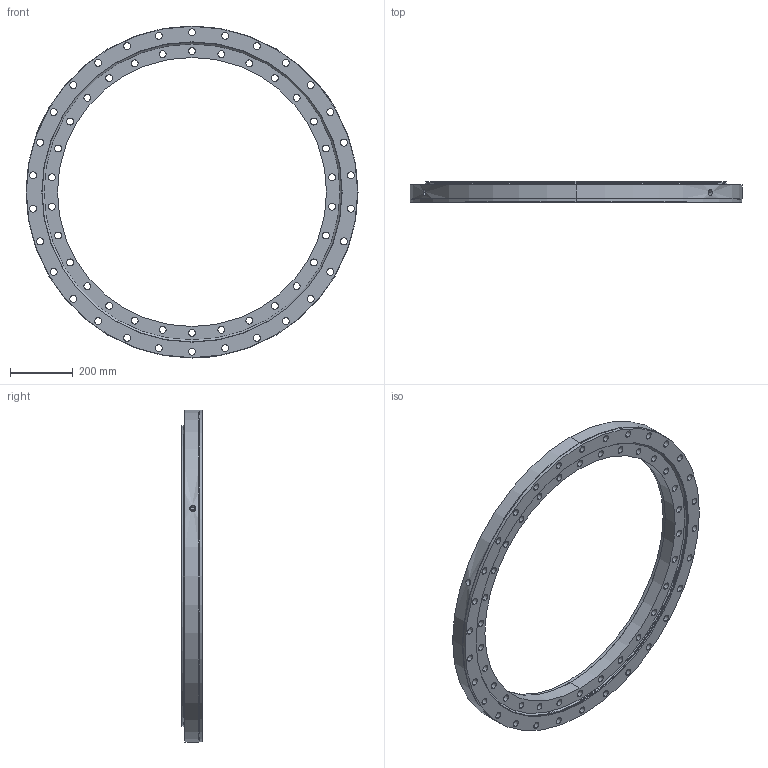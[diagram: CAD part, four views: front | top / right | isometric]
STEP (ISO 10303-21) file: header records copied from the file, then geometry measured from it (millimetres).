
FILE_DESCRIPTION (( 'STEP AP214' ), '1' );
FILE_NAME ('B2125-0-1055AA.STEP', '2022-11-24T06:49:37', ( '' ), ( '' ), 'SwSTEP 2.0', 'SolidWorks 2020', '' );
FILE_SCHEMA (( 'AUTOMOTIVE_DESIGN' ));
Length unit declared in the file: millimetre
Products named in the file (1): B2125-0-1055AA
Bounding box: 1055 x 65 x 1055 mm (x, y, z)
Volume: 14981844.9 mm3; surface area: 1723386.7 mm2
Topology: 4 solids, 4 shells, 210 faces, 558 edges, 368 vertices
Faces by surface type: cylinder 175, plane 23, cone 12
Entity records: 7576 total; most frequent: CARTESIAN_POINT 1716, DIRECTION 1303, ORIENTED_EDGE 1116, EDGE_CURVE 558, AXIS2_PLACEMENT_3D 555, VERTEX_POINT 368, EDGE_LOOP 356, CIRCLE 344
